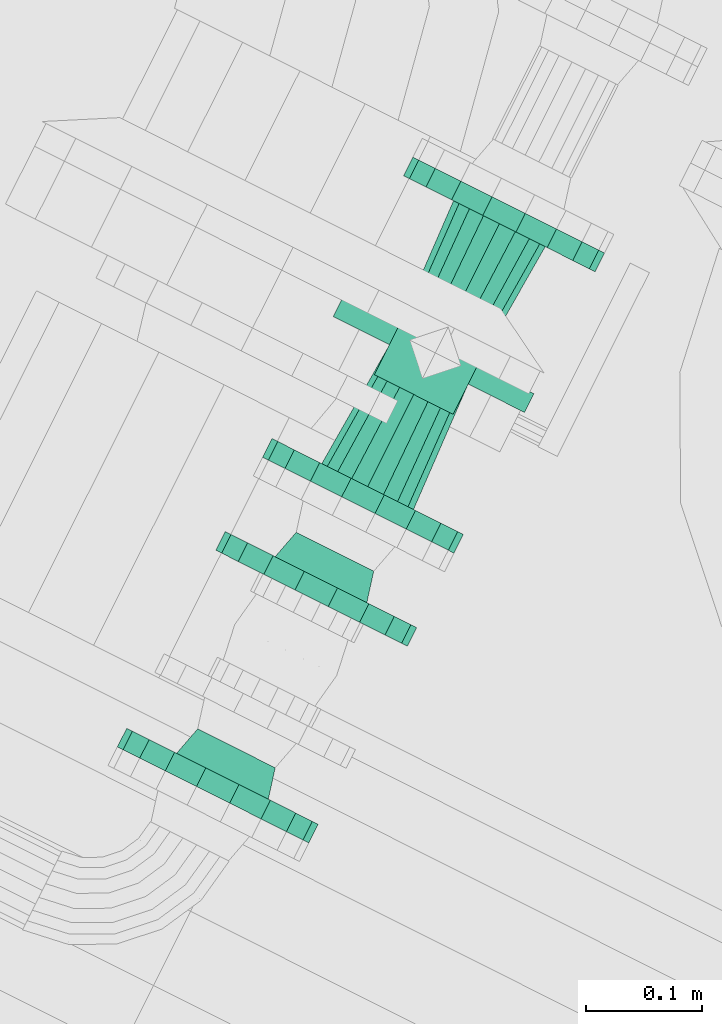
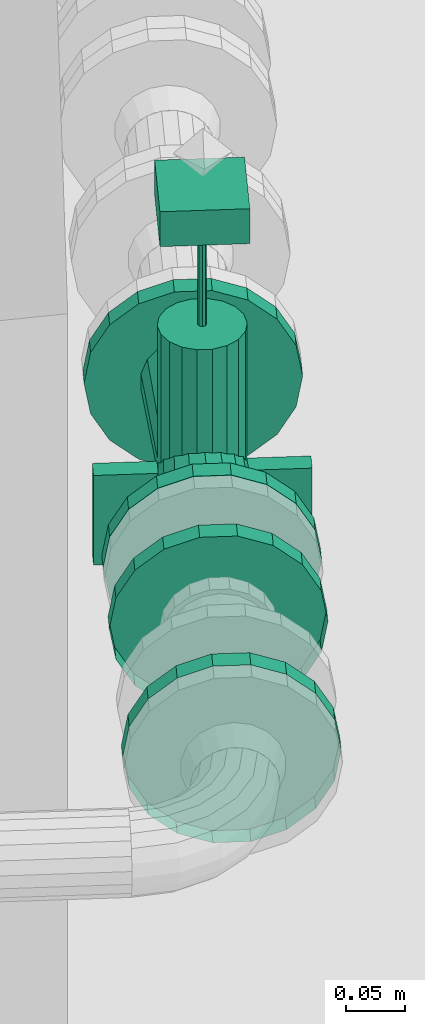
# One storey, part 60 of 206: 2 flow fittings, 1 flow controller.
"""IFC2X3 building model written with IfcOpenShell, lengths in metres."""

from ifc_helpers import new_model, si_unit, derived_unit, direction, frame, origin, place, context, subcontext, project, spatial, face_set, surface_model, source, transform, mapped, material, type_object, type_shapes, element, save


model = new_model("IFC2X3")

# Units and contexts
model_context = context("Model", 3, precision=5.2338327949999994e-05, world=origin(), true_north=direction((0.0, 1.0)))
body_context = subcontext(model_context, "Body", "Model", "MODEL_VIEW")
ifc_project = project(units=[si_unit("LENGTHUNIT", "METRE"), si_unit("AREAUNIT", "SQUARE_METRE"), si_unit("VOLUMEUNIT", "CUBIC_METRE"), si_unit("MASSUNIT", "GRAM", prefix="KILO"), si_unit("PLANEANGLEUNIT", "RADIAN"), derived_unit("THERMALTRANSMITTANCEUNIT", [(si_unit("MASSUNIT", "GRAM", prefix="KILO"), 1), (si_unit("THERMODYNAMICTEMPERATUREUNIT", "KELVIN"), -1), (si_unit("TIMEUNIT", "SECOND"), -3)])], contexts=[model_context])

# Site, building, storey
site_placement = place(None, frame((0.0, 0.0, 0.0), z_axis=(0.0, 0.0, 1.0), x_axis=(0.8939966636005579, -0.4480736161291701, 0.0)))
site = spatial("IfcSite", under=ifc_project, at=site_placement, Name="Default", CompositionType="ELEMENT")
building_placement = place(site_placement, origin())
building = spatial("IfcBuilding", under=site, at=building_placement, CompositionType="ELEMENT")
storey_placement = place(building_placement, origin())
storey = spatial("IfcBuildingStorey", under=building, at=storey_placement, Name="Erdgeschoss", CompositionType="ELEMENT", Elevation=0.0)

# Flow controller
ifc_material = material(Name="IfcSurfaceStyle #352577")
distribution_element_type_1 = type_object("IfcDistributionElementType", Name="Schieber 602983:Schieber 602983", material=ifc_material)
shared_shape_1 = source(origin(), body_context, "Body", "SurfaceModel", [
    surface_model("IfcFaceBasedSurfaceModel", [(25.052590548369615, 5.4310083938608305, 1.1239999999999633), (25.052590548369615, 5.35490839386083, 1.1239999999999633), (25.128690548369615, 5.35490839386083, 1.1239999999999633), (25.128690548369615, 5.4310083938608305, 1.1239999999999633), (25.128690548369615, 5.35490839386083, 1.1599999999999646), (25.128690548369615, 5.4310083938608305, 1.1599999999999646), (25.052590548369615, 5.35490839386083, 1.1599999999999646), (25.052590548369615, 5.4310083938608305, 1.1599999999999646), (25.183140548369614, 5.537958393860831, 0.8699999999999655), (25.17756211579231, 5.537958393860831, 0.9016368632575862), (25.17756211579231, 5.519958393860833, 0.9016368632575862), (25.183140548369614, 5.519958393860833, 0.8699999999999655), (25.161499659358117, 5.537958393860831, 0.9294578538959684), (25.161499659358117, 5.519958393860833, 0.9294578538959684), (25.13689054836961, 5.537958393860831, 0.9501073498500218), (25.13689054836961, 5.519958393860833, 0.9501073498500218), (25.106703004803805, 5.537958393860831, 0.961094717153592), (25.106703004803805, 5.519958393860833, 0.961094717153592), (25.07457809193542, 5.537958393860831, 0.9610947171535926), (25.07457809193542, 5.519958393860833, 0.9610947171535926), (25.044390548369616, 5.537958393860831, 0.9501073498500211), (25.044390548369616, 5.519958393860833, 0.9501073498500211), (25.01978143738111, 5.537958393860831, 0.9294578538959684), (25.01978143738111, 5.519958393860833, 0.9294578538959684), (25.003718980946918, 5.537958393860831, 0.9016368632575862), (25.003718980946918, 5.519958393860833, 0.9016368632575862), (24.998140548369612, 5.537958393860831, 0.8699999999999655), (24.998140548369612, 5.519958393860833, 0.8699999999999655), (25.003718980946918, 5.537958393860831, 0.8383631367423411), (25.003718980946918, 5.519958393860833, 0.8383631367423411), (25.01978143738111, 5.537958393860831, 0.8105421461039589), (25.01978143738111, 5.519958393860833, 0.8105421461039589), (25.044390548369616, 5.537958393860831, 0.7898926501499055), (25.044390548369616, 5.519958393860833, 0.7898926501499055), (25.07457809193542, 5.537958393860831, 0.7789052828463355), (25.07457809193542, 5.519958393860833, 0.7789052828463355), (25.106703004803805, 5.537958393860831, 0.7789052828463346), (25.106703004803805, 5.519958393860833, 0.7789052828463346), (25.13689054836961, 5.537958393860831, 0.7898926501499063), (25.13689054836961, 5.519958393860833, 0.7898926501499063), (25.161499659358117, 5.537958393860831, 0.8105421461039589), (25.161499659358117, 5.519958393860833, 0.8105421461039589), (25.17756211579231, 5.537958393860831, 0.8383631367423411), (25.17756211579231, 5.519958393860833, 0.8383631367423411), (25.090640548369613, 5.53795839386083, 0.8699999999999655), (25.090640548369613, 5.519958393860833, 0.8699999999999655), (25.090640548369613, 5.519958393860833, 0.8249999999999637), (25.10603145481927, 5.519958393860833, 0.827713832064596), (25.103654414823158, 5.392958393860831, 0.834244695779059), (25.090640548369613, 5.392958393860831, 0.8319499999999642), (25.11956599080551, 5.519958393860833, 0.8355280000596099), (25.11509861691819, 5.392958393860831, 0.8408520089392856), (25.129611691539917, 5.519958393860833, 0.8474999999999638), (25.12359281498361, 5.392958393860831, 0.8509749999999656), (25.13495689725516, 5.519958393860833, 0.8621858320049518), (25.12811248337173, 5.392958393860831, 0.8633926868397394), (25.13495689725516, 5.519958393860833, 0.8778141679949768), (25.12811248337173, 5.392958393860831, 0.8766073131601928), (25.129611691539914, 5.519958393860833, 0.8924999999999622), (25.12359281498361, 5.392958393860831, 0.8890249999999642), (25.11956599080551, 5.519958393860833, 0.9044719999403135), (25.11509861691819, 5.392958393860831, 0.8991479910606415), (25.10603145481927, 5.519958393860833, 0.9122861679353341), (25.10365441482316, 5.392958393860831, 0.9057553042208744), (25.090640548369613, 5.519958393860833, 0.9149999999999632), (25.090640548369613, 5.392958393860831, 0.9080499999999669), (25.075249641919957, 5.519958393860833, 0.9122861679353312), (25.07762668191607, 5.392958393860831, 0.9057553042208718), (25.061715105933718, 5.519958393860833, 0.9044719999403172), (25.066182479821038, 5.392958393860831, 0.8991479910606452), (25.051669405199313, 5.519958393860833, 0.8924999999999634), (25.057688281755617, 5.392958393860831, 0.8890249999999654), (25.046324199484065, 5.519958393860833, 0.8778141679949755), (25.0531686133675, 5.392958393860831, 0.8766073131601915), (25.046324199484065, 5.519958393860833, 0.8621858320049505), (25.0531686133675, 5.392958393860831, 0.8633926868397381), (25.051669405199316, 5.519958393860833, 0.8474999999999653), (25.057688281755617, 5.392958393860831, 0.8509749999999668), (25.061715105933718, 5.519958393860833, 0.8355280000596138), (25.066182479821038, 5.392958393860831, 0.8408520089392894), (25.075249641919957, 5.519958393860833, 0.8277138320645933), (25.07762668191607, 5.392958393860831, 0.8342446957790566), (25.10603145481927, 5.265958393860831, 0.8277138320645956), (25.090640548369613, 5.265958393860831, 0.8249999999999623), (25.11956599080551, 5.265958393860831, 0.8355280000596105), (25.12961169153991, 5.265958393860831, 0.8474999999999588), (25.13495689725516, 5.265958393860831, 0.8621858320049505), (25.13495689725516, 5.265958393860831, 0.8778141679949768), (25.12961169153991, 5.265958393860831, 0.8924999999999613), (25.119565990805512, 5.265958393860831, 0.9044719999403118), (25.10603145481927, 5.265958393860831, 0.912286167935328), (25.090640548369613, 5.265958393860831, 0.9149999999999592), (25.075249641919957, 5.265958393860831, 0.9122861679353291), (25.061715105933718, 5.265958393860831, 0.9044719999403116), (25.051669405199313, 5.265958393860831, 0.8924999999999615), (25.046324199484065, 5.265958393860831, 0.8778141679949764), (25.046324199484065, 5.265958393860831, 0.8621858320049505), (25.051669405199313, 5.265958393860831, 0.8474999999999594), (25.061715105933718, 5.265958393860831, 0.8355280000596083), (25.075249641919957, 5.265958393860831, 0.8277138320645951), (25.183140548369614, 5.265958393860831, 0.8699999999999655), (25.17756211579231, 5.265958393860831, 0.9016368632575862), (25.17756211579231, 5.247958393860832, 0.9016368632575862), (25.183140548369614, 5.247958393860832, 0.8699999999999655), (25.161499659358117, 5.265958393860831, 0.9294578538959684), (25.161499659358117, 5.247958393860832, 0.9294578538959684), (25.13689054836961, 5.265958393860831, 0.9501073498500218), (25.13689054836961, 5.247958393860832, 0.9501073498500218), (25.106703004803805, 5.265958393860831, 0.961094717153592), (25.106703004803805, 5.247958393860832, 0.961094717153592), (25.07457809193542, 5.265958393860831, 0.9610947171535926), (25.07457809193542, 5.247958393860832, 0.9610947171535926), (25.044390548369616, 5.265958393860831, 0.9501073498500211), (25.044390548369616, 5.247958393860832, 0.9501073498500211), (25.01978143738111, 5.265958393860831, 0.9294578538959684), (25.01978143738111, 5.247958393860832, 0.9294578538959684), (25.003718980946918, 5.265958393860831, 0.9016368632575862), (25.003718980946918, 5.247958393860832, 0.9016368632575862), (24.998140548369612, 5.265958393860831, 0.8699999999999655), (24.998140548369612, 5.247958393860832, 0.8699999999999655), (25.003718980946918, 5.265958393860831, 0.8383631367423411), (25.003718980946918, 5.247958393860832, 0.8383631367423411), (25.01978143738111, 5.265958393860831, 0.8105421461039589), (25.01978143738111, 5.247958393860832, 0.8105421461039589), (25.044390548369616, 5.265958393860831, 0.7898926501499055), (25.044390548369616, 5.247958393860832, 0.7898926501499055), (25.07457809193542, 5.265958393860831, 0.7789052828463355), (25.07457809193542, 5.247958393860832, 0.7789052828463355), (25.106703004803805, 5.265958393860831, 0.7789052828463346), (25.106703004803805, 5.247958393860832, 0.7789052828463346), (25.13689054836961, 5.265958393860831, 0.7898926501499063), (25.13689054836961, 5.247958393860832, 0.7898926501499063), (25.161499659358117, 5.265958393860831, 0.8105421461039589), (25.161499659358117, 5.247958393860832, 0.8105421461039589), (25.17756211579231, 5.265958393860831, 0.8383631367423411), (25.17756211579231, 5.247958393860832, 0.8383631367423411), (25.090640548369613, 5.265958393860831, 0.8699999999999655), (25.090640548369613, 5.247958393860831, 0.8699999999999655), (25.128690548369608, 5.39295839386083, 0.869999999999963), (25.126395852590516, 5.405972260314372, 0.869999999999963), (25.126395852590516, 5.405972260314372, 1.0160249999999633), (25.128690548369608, 5.39295839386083, 1.0160249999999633), (25.119788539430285, 5.417416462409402, 0.869999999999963), (25.119788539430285, 5.417416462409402, 1.0160249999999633), (25.109665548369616, 5.4259106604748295, 0.869999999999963), (25.109665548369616, 5.4259106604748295, 1.0160249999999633), (25.09724786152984, 5.430430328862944, 0.869999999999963), (25.09724786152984, 5.430430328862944, 1.0160249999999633), (25.084033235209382, 5.430430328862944, 0.869999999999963), (25.084033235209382, 5.430430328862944, 1.0160249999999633), (25.071615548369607, 5.425910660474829, 0.869999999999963), (25.071615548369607, 5.425910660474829, 1.0160249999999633), (25.061492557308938, 5.4174164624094, 0.869999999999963), (25.061492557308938, 5.4174164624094, 1.0160249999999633), (25.05488524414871, 5.405972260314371, 0.869999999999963), (25.05488524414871, 5.405972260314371, 1.0160249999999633), (25.052590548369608, 5.39295839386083, 0.869999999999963), (25.052590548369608, 5.39295839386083, 1.0160249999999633), (25.054885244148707, 5.379944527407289, 0.869999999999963), (25.054885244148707, 5.379944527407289, 1.0160249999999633), (25.061492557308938, 5.36850032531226, 0.869999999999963), (25.061492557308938, 5.36850032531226, 1.0160249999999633), (25.071615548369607, 5.360006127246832, 0.869999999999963), (25.071615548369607, 5.360006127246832, 1.0160249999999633), (25.084033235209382, 5.355486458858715, 0.869999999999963), (25.084033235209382, 5.355486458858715, 1.0160249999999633), (25.09724786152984, 5.355486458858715, 0.869999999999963), (25.09724786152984, 5.355486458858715, 1.0160249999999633), (25.109665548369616, 5.360006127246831, 0.869999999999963), (25.109665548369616, 5.360006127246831, 1.0160249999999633), (25.119788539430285, 5.368500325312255, 0.869999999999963), (25.119788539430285, 5.368500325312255, 1.0160249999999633), (25.126395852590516, 5.379944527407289, 0.869999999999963), (25.126395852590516, 5.379944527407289, 1.0160249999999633), (25.090640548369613, 5.392958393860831, 0.8699999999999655), (25.090640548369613, 5.39295839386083, 1.016024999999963), (25.094445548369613, 5.3929583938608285, 1.0160249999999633), (25.093331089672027, 5.395648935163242, 1.0160249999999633), (25.093331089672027, 5.395648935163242, 1.1239999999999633), (25.094445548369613, 5.3929583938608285, 1.1239999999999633), (25.090640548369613, 5.396763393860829, 1.0160249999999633), (25.090640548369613, 5.396763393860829, 1.1239999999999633), (25.0879500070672, 5.395648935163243, 1.0160249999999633), (25.0879500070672, 5.395648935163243, 1.1239999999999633), (25.08683554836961, 5.39295839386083, 1.0160249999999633), (25.08683554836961, 5.39295839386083, 1.1239999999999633), (25.0879500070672, 5.390267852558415, 1.0160249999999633), (25.0879500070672, 5.390267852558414, 1.1239999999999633), (25.090640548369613, 5.3891533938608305, 1.0160249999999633), (25.090640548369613, 5.3891533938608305, 1.1239999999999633), (25.093331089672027, 5.390267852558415, 1.0160249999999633), (25.093331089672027, 5.390267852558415, 1.1239999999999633), (25.090640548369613, 5.39295839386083, 1.1239999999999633), (24.99814054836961, 5.401958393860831, 0.7774999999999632), (24.99814054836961, 5.38395839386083, 0.7774999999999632), (25.183140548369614, 5.38395839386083, 0.7774999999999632), (25.183140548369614, 5.401958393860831, 0.7774999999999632), (25.183140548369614, 5.38395839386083, 0.869999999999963), (25.183140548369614, 5.401958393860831, 0.869999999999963), (24.99814054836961, 5.38395839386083, 0.869999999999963), (24.99814054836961, 5.401958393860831, 0.869999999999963)], [face_set([[[0, 1, 2, 3]], [[3, 2, 4, 5]], [[5, 4, 6, 7]], [[7, 6, 1, 0]], [[0, 3, 5, 7]], [[6, 4, 2, 1]], [[8, 9, 10, 11]], [[9, 12, 13, 10]], [[12, 14, 15, 13]], [[14, 16, 17, 15]], [[16, 18, 19, 17]], [[18, 20, 21, 19]], [[20, 22, 23, 21]], [[22, 24, 25, 23]], [[24, 26, 27, 25]], [[26, 28, 29, 27]], [[28, 30, 31, 29]], [[30, 32, 33, 31]], [[32, 34, 35, 33]], [[34, 36, 37, 35]], [[36, 38, 39, 37]], [[38, 40, 41, 39]], [[40, 42, 43, 41]], [[42, 8, 11, 43]], [[44, 9, 8]], [[44, 12, 9]], [[44, 14, 12]], [[44, 16, 14]], [[44, 18, 16]], [[44, 20, 18]], [[44, 22, 20]], [[44, 24, 22]], [[44, 26, 24]], [[44, 28, 26]], [[44, 30, 28]], [[44, 32, 30]], [[44, 34, 32]], [[44, 36, 34]], [[44, 38, 36]], [[44, 40, 38]], [[44, 42, 40]], [[44, 8, 42]], [[45, 43, 11]], [[45, 41, 43]], [[45, 39, 41]], [[45, 37, 39]], [[45, 35, 37]], [[45, 33, 35]], [[45, 31, 33]], [[45, 29, 31]], [[45, 27, 29]], [[45, 25, 27]], [[45, 23, 25]], [[45, 21, 23]], [[45, 19, 21]], [[45, 17, 19]], [[45, 15, 17]], [[45, 13, 15]], [[45, 10, 13]], [[45, 11, 10]], [[46, 47, 48, 49]], [[47, 50, 51, 48]], [[50, 52, 53, 51]], [[52, 54, 55, 53]], [[54, 56, 57, 55]], [[56, 58, 59, 57]], [[58, 60, 61, 59]], [[60, 62, 63, 61]], [[62, 64, 65, 63]], [[64, 66, 67, 65]], [[66, 68, 69, 67]], [[68, 70, 71, 69]], [[70, 72, 73, 71]], [[72, 74, 75, 73]], [[74, 76, 77, 75]], [[76, 78, 79, 77]], [[78, 80, 81, 79]], [[80, 46, 49, 81]], [[49, 48, 82, 83]], [[48, 51, 84, 82]], [[51, 53, 85, 84]], [[53, 55, 86, 85]], [[55, 57, 87, 86]], [[57, 59, 88, 87]], [[59, 61, 89, 88]], [[61, 63, 90, 89]], [[63, 65, 91, 90]], [[65, 67, 92, 91]], [[67, 69, 93, 92]], [[69, 71, 94, 93]], [[71, 73, 95, 94]], [[73, 75, 96, 95]], [[75, 77, 97, 96]], [[77, 79, 98, 97]], [[79, 81, 99, 98]], [[81, 49, 83, 99]], [[100, 101, 102, 103]], [[101, 104, 105, 102]], [[104, 106, 107, 105]], [[106, 108, 109, 107]], [[108, 110, 111, 109]], [[110, 112, 113, 111]], [[112, 114, 115, 113]], [[114, 116, 117, 115]], [[116, 118, 119, 117]], [[118, 120, 121, 119]], [[120, 122, 123, 121]], [[122, 124, 125, 123]], [[124, 126, 127, 125]], [[126, 128, 129, 127]], [[128, 130, 131, 129]], [[130, 132, 133, 131]], [[132, 134, 135, 133]], [[134, 100, 103, 135]], [[136, 101, 100]], [[136, 104, 101]], [[136, 106, 104]], [[136, 108, 106]], [[136, 110, 108]], [[136, 112, 110]], [[136, 114, 112]], [[136, 116, 114]], [[136, 118, 116]], [[136, 120, 118]], [[136, 122, 120]], [[136, 124, 122]], [[136, 126, 124]], [[136, 128, 126]], [[136, 130, 128]], [[136, 132, 130]], [[136, 134, 132]], [[136, 100, 134]], [[137, 135, 103]], [[137, 133, 135]], [[137, 131, 133]], [[137, 129, 131]], [[137, 127, 129]], [[137, 125, 127]], [[137, 123, 125]], [[137, 121, 123]], [[137, 119, 121]], [[137, 117, 119]], [[137, 115, 117]], [[137, 113, 115]], [[137, 111, 113]], [[137, 109, 111]], [[137, 107, 109]], [[137, 105, 107]], [[137, 102, 105]], [[137, 103, 102]], [[138, 139, 140, 141]], [[139, 142, 143, 140]], [[142, 144, 145, 143]], [[144, 146, 147, 145]], [[146, 148, 149, 147]], [[148, 150, 151, 149]], [[150, 152, 153, 151]], [[152, 154, 155, 153]], [[154, 156, 157, 155]], [[156, 158, 159, 157]], [[158, 160, 161, 159]], [[160, 162, 163, 161]], [[162, 164, 165, 163]], [[164, 166, 167, 165]], [[166, 168, 169, 167]], [[168, 170, 171, 169]], [[170, 172, 173, 171]], [[172, 138, 141, 173]], [[174, 139, 138]], [[174, 142, 139]], [[174, 144, 142]], [[174, 146, 144]], [[174, 148, 146]], [[174, 150, 148]], [[174, 152, 150]], [[174, 154, 152]], [[174, 156, 154]], [[174, 158, 156]], [[174, 160, 158]], [[174, 162, 160]], [[174, 164, 162]], [[174, 166, 164]], [[174, 168, 166]], [[174, 170, 168]], [[174, 172, 170]], [[174, 138, 172]], [[175, 173, 141]], [[175, 171, 173]], [[175, 169, 171]], [[175, 167, 169]], [[175, 165, 167]], [[175, 163, 165]], [[175, 161, 163]], [[175, 159, 161]], [[175, 157, 159]], [[175, 155, 157]], [[175, 153, 155]], [[175, 151, 153]], [[175, 149, 151]], [[175, 147, 149]], [[175, 145, 147]], [[175, 143, 145]], [[175, 140, 143]], [[175, 141, 140]], [[176, 177, 178, 179]], [[177, 180, 181, 178]], [[180, 182, 183, 181]], [[182, 184, 185, 183]], [[184, 186, 187, 185]], [[186, 188, 189, 187]], [[188, 190, 191, 189]], [[190, 176, 179, 191]], [[192, 191, 179]], [[192, 189, 191]], [[192, 187, 189]], [[192, 185, 187]], [[192, 183, 185]], [[192, 181, 183]], [[192, 178, 181]], [[192, 179, 178]], [[193, 194, 195, 196]], [[196, 195, 197, 198]], [[198, 197, 199, 200]], [[200, 199, 194, 193]], [[193, 196, 198, 200]], [[199, 197, 195, 194]]])]),
])
type_shapes(distribution_element_type_1, [shared_shape_1])
flow_controller_placement = place(storey_placement, origin())
element("IfcFlowController", 1, at=flow_controller_placement, inside=storey, type_object=distribution_element_type_1, material=ifc_material, Name="Schieber", ObjectType="Schieber", context=body_context, shape_type="MappedRepresentation", body=[
    mapped(shared_shape_1, transform((0.0, 0.0, 0.0), scale=1.0)),
])

# Flow fittings
distribution_element_type_2 = type_object("IfcDistributionElementType", Name="Flansch 603073:Flansch 603073", material=ifc_material)
shared_shape_2 = source(origin(), body_context, "Body", "SurfaceModel", [
    surface_model("IfcFaceBasedSurfaceModel", [(25.090640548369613, 5.012958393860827, 0.8319499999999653), (25.10365441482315, 5.012958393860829, 0.8342446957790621), (25.10603145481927, 4.985958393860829, 0.8277138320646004), (25.090640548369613, 4.985958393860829, 0.8249999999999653), (25.115098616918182, 5.012958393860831, 0.8408520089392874), (25.11956599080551, 4.985958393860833, 0.835528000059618), (25.12359281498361, 5.012958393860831, 0.8509749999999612), (25.129611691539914, 4.985958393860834, 0.8474999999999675), (25.12811248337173, 5.012958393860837, 0.8633926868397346), (25.134956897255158, 4.985958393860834, 0.8621858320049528), (25.128112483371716, 5.012958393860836, 0.8766073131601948), (25.134956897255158, 4.9859583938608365, 0.877814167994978), (25.12359281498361, 5.012958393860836, 0.8890249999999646), (25.129611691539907, 4.985958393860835, 0.8924999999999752), (25.115098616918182, 5.012958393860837, 0.8991479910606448), (25.1195659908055, 4.985958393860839, 0.9044719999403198), (25.103654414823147, 5.0129583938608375, 0.9057553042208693), (25.10603145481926, 4.985958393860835, 0.9122861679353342), (25.090640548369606, 5.012958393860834, 0.9080499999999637), (25.09064054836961, 4.985958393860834, 0.9149999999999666), (25.077626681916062, 5.012958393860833, 0.905755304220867), (25.075249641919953, 4.985958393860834, 0.9122861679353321), (25.066182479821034, 5.012958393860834, 0.8991479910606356), (25.06171510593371, 4.985958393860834, 0.9044719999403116), (25.05768828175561, 5.012958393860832, 0.8890249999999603), (25.05166940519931, 4.985958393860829, 0.8924999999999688), (25.053168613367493, 5.012958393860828, 0.8766073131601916), (25.046324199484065, 4.985958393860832, 0.8778141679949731), (25.053168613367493, 5.012958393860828, 0.8633926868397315), (25.046324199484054, 4.9859583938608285, 0.862185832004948), (25.05768828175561, 5.012958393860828, 0.8509749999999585), (25.051669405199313, 4.9859583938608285, 0.8474999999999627), (25.066182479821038, 5.01295839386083, 0.8408520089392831), (25.061715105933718, 4.985958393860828, 0.835528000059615), (25.077626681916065, 5.012958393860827, 0.8342446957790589), (25.075249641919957, 4.985958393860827, 0.8277138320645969), (25.18314054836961, 4.985958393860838, 0.8699999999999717), (25.177562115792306, 4.985958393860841, 0.9016368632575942), (25.177562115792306, 4.967958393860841, 0.9016368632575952), (25.18314054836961, 4.9679583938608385, 0.8699999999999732), (25.161499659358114, 4.985958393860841, 0.9294578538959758), (25.161499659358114, 4.96795839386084, 0.9294578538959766), (25.136890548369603, 4.985958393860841, 0.9501073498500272), (25.136890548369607, 4.967958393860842, 0.950107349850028), (25.106703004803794, 4.985958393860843, 0.9610947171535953), (25.106703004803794, 4.967958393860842, 0.961094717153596), (25.074578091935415, 4.985958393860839, 0.9610947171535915), (25.07457809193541, 4.9679583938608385, 0.9610947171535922), (25.044390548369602, 4.985958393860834, 0.9501073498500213), (25.044390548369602, 4.967958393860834, 0.950107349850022), (25.0197814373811, 4.985958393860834, 0.9294578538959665), (25.0197814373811, 4.967958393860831, 0.9294578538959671), (25.003718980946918, 4.985958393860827, 0.9016368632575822), (25.003718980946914, 4.967958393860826, 0.901636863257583), (24.99814054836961, 4.985958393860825, 0.8699999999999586), (24.99814054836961, 4.967958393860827, 0.8699999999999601), (25.003718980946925, 4.985958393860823, 0.8383631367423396), (25.003718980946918, 4.9679583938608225, 0.8383631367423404), (25.01978143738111, 4.985958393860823, 0.8105421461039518), (25.01978143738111, 4.9679583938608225, 0.8105421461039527), (25.04439054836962, 4.985958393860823, 0.7898926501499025), (25.044390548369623, 4.9679583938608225, 0.7898926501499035), (25.074578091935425, 4.985958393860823, 0.7789052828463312), (25.074578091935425, 4.967958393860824, 0.7789052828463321), (25.10670300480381, 4.985958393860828, 0.7789052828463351), (25.10670300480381, 4.967958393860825, 0.7789052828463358), (25.13689054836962, 4.985958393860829, 0.7898926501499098), (25.13689054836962, 4.96795839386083, 0.7898926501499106), (25.161499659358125, 4.985958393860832, 0.810542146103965), (25.161499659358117, 4.967958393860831, 0.8105421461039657), (25.17756211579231, 4.985958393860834, 0.8383631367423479), (25.17756211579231, 4.967958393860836, 0.8383631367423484), (25.090640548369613, 4.985958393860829, 0.8699999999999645)], [face_set([[[0, 1, 2, 3]], [[1, 4, 5, 2]], [[4, 6, 7, 5]], [[6, 8, 9, 7]], [[8, 10, 11, 9]], [[10, 12, 13, 11]], [[12, 14, 15, 13]], [[14, 16, 17, 15]], [[16, 18, 19, 17]], [[18, 20, 21, 19]], [[20, 22, 23, 21]], [[22, 24, 25, 23]], [[24, 26, 27, 25]], [[26, 28, 29, 27]], [[28, 30, 31, 29]], [[30, 32, 33, 31]], [[32, 34, 35, 33]], [[34, 0, 3, 35]], [[36, 37, 38, 39]], [[37, 40, 41, 38]], [[40, 42, 43, 41]], [[42, 44, 45, 43]], [[44, 46, 47, 45]], [[46, 48, 49, 47]], [[48, 50, 51, 49]], [[50, 52, 53, 51]], [[52, 54, 55, 53]], [[54, 56, 57, 55]], [[56, 58, 59, 57]], [[58, 60, 61, 59]], [[60, 62, 63, 61]], [[62, 64, 65, 63]], [[64, 66, 67, 65]], [[66, 68, 69, 67]], [[68, 70, 71, 69]], [[70, 36, 39, 71]], [[72, 37, 36]], [[72, 40, 37]], [[72, 42, 40]], [[72, 44, 42]], [[72, 46, 44]], [[72, 48, 46]], [[72, 50, 48]], [[72, 52, 50]], [[72, 54, 52]], [[72, 56, 54]], [[72, 58, 56]], [[72, 60, 58]], [[72, 62, 60]], [[72, 64, 62]], [[72, 66, 64]], [[72, 68, 66]], [[72, 70, 68]], [[72, 36, 70]]])]),
])
type_shapes(distribution_element_type_2, [shared_shape_2])
flow_fitting_1_placement = place(storey_placement, origin())
element("IfcFlowFitting", 2, at=flow_fitting_1_placement, inside=storey, type_object=distribution_element_type_2, material=ifc_material, Name="Flansch", ObjectType="Flansch", context=body_context, shape_type="MappedRepresentation", body=[
    mapped(shared_shape_2, transform((0.0, 0.0, 0.0), scale=1.0)),
])
distribution_element_type_3 = type_object("IfcDistributionElementType", Name="Flansch 604109:Flansch 604109", material=ifc_material)
shared_shape_3 = source(origin(), body_context, "Body", "SurfaceModel", [
    surface_model("IfcFaceBasedSurfaceModel", [(25.090640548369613, 5.2029583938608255, 0.8319499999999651), (25.10365441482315, 5.202958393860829, 0.8342446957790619), (25.10603145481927, 5.17595839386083, 0.8277138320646), (25.090640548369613, 5.175958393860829, 0.8249999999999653), (25.115098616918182, 5.202958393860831, 0.840852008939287), (25.11956599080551, 5.175958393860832, 0.8355280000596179), (25.123592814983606, 5.20295839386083, 0.8509749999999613), (25.129611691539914, 5.175958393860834, 0.8474999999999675), (25.12811248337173, 5.202958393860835, 0.8633926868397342), (25.134956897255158, 5.175958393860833, 0.8621858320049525), (25.128112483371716, 5.202958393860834, 0.8766073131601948), (25.134956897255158, 5.175958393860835, 0.877814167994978), (25.12359281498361, 5.202958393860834, 0.8890249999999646), (25.129611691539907, 5.175958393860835, 0.8924999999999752), (25.115098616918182, 5.202958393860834, 0.8991479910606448), (25.1195659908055, 5.175958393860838, 0.9044719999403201), (25.103654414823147, 5.202958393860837, 0.9057553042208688), (25.10603145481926, 5.175958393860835, 0.9122861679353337), (25.090640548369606, 5.2029583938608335, 0.9080499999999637), (25.09064054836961, 5.175958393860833, 0.9149999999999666), (25.077626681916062, 5.202958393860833, 0.9057553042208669), (25.075249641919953, 5.175958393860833, 0.9122861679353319), (25.066182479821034, 5.202958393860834, 0.8991479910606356), (25.06171510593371, 5.175958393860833, 0.9044719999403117), (25.05768828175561, 5.202958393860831, 0.8890249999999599), (25.05166940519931, 5.17595839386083, 0.8924999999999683), (25.053168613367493, 5.202958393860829, 0.8766073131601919), (25.046324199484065, 5.175958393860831, 0.8778141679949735), (25.053168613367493, 5.202958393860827, 0.8633926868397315), (25.046324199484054, 5.175958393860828, 0.862185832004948), (25.05768828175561, 5.202958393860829, 0.8509749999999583), (25.051669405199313, 5.175958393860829, 0.8474999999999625), (25.066182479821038, 5.20295839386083, 0.8408520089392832), (25.061715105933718, 5.175958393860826, 0.8355280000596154), (25.077626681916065, 5.2029583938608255, 0.834244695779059), (25.075249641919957, 5.175958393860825, 0.8277138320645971), (25.18314054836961, 5.175958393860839, 0.8699999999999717), (25.177562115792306, 5.1759583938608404, 0.9016368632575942), (25.177562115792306, 5.157958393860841, 0.901636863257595), (25.18314054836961, 5.157958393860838, 0.8699999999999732), (25.161499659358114, 5.1759583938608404, 0.9294578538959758), (25.161499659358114, 5.157958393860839, 0.9294578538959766), (25.136890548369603, 5.1759583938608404, 0.9501073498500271), (25.136890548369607, 5.1579583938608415, 0.950107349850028), (25.106703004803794, 5.1759583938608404, 0.9610947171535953), (25.106703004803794, 5.157958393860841, 0.961094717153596), (25.074578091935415, 5.175958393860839, 0.9610947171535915), (25.07457809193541, 5.157958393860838, 0.9610947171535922), (25.044390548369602, 5.175958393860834, 0.9501073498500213), (25.044390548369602, 5.157958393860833, 0.950107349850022), (25.0197814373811, 5.175958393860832, 0.9294578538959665), (25.0197814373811, 5.157958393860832, 0.9294578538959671), (25.003718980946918, 5.175958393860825, 0.9016368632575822), (25.003718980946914, 5.157958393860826, 0.901636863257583), (24.99814054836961, 5.175958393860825, 0.8699999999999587), (24.99814054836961, 5.1579583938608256, 0.86999999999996), (25.003718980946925, 5.175958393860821, 0.8383631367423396), (25.003718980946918, 5.157958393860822, 0.8383631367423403), (25.01978143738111, 5.175958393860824, 0.8105421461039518), (25.01978143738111, 5.157958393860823, 0.8105421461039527), (25.04439054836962, 5.175958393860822, 0.7898926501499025), (25.044390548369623, 5.157958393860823, 0.7898926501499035), (25.074578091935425, 5.175958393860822, 0.7789052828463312), (25.074578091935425, 5.157958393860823, 0.7789052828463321), (25.10670300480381, 5.175958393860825, 0.7789052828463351), (25.10670300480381, 5.1579583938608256, 0.7789052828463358), (25.13689054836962, 5.17595839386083, 0.7898926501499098), (25.13689054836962, 5.157958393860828, 0.7898926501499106), (25.161499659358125, 5.175958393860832, 0.810542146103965), (25.161499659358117, 5.157958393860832, 0.8105421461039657), (25.17756211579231, 5.175958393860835, 0.8383631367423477), (25.17756211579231, 5.157958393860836, 0.8383631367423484), (25.090640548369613, 5.175958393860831, 0.8699999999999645)], [face_set([[[0, 1, 2, 3]], [[1, 4, 5, 2]], [[4, 6, 7, 5]], [[6, 8, 9, 7]], [[8, 10, 11, 9]], [[10, 12, 13, 11]], [[12, 14, 15, 13]], [[14, 16, 17, 15]], [[16, 18, 19, 17]], [[18, 20, 21, 19]], [[20, 22, 23, 21]], [[22, 24, 25, 23]], [[24, 26, 27, 25]], [[26, 28, 29, 27]], [[28, 30, 31, 29]], [[30, 32, 33, 31]], [[32, 34, 35, 33]], [[34, 0, 3, 35]], [[36, 37, 38, 39]], [[37, 40, 41, 38]], [[40, 42, 43, 41]], [[42, 44, 45, 43]], [[44, 46, 47, 45]], [[46, 48, 49, 47]], [[48, 50, 51, 49]], [[50, 52, 53, 51]], [[52, 54, 55, 53]], [[54, 56, 57, 55]], [[56, 58, 59, 57]], [[58, 60, 61, 59]], [[60, 62, 63, 61]], [[62, 64, 65, 63]], [[64, 66, 67, 65]], [[66, 68, 69, 67]], [[68, 70, 71, 69]], [[70, 36, 39, 71]], [[72, 37, 36]], [[72, 40, 37]], [[72, 42, 40]], [[72, 44, 42]], [[72, 46, 44]], [[72, 48, 46]], [[72, 50, 48]], [[72, 52, 50]], [[72, 54, 52]], [[72, 56, 54]], [[72, 58, 56]], [[72, 60, 58]], [[72, 62, 60]], [[72, 64, 62]], [[72, 66, 64]], [[72, 68, 66]], [[72, 70, 68]], [[72, 36, 70]]])]),
])
type_shapes(distribution_element_type_3, [shared_shape_3])
flow_fitting_2_placement = place(storey_placement, origin())
element("IfcFlowFitting", 3, at=flow_fitting_2_placement, inside=storey, type_object=distribution_element_type_3, material=ifc_material, Name="Flansch", ObjectType="Flansch", context=body_context, shape_type="MappedRepresentation", body=[
    mapped(shared_shape_3, transform((0.0, 0.0, 0.0), scale=1.0)),
])

save(model, "model.ifc")
